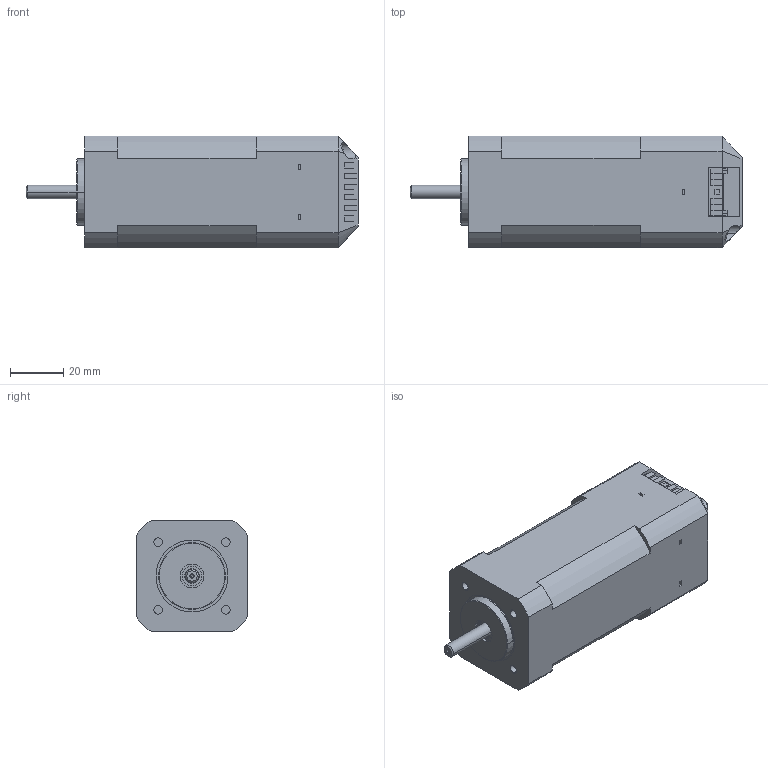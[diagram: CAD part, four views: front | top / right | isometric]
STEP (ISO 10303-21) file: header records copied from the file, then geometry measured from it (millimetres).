
FILE_DESCRIPTION((''),'2;1');
FILE_NAME('3_1_02_042_1545X2_SW0001','2024-10-15T11:17:36',('huangxue'),(''),'CREO PARAMETRIC BY PTC INC, 2017110','CREO PARAMETRIC BY PTC INC, 2017110','');
FILE_SCHEMA(('CONFIG_CONTROL_DESIGN'));
Products named in the file (1): 3_1_02_042_1545X2_SW0001
Bounding box: 124.8 x 42 x 42 mm (x, y, z)
Volume: 109248.5 mm3; surface area: 101103.6 mm2
Topology: 2 solids, 4 shells, 3101 faces, 8462 edges, 5486 vertices
Faces by surface type: plane 2461, cylinder 529, cone 56, torus 29, sphere 16, bspline 10
Entity records: 98964 total; most frequent: CARTESIAN_POINT 19193, ORIENTED_EDGE 16916, DIRECTION 16097, EDGE_CURVE 8458, VECTOR 6657, LINE 6657, VERTEX_POINT 5485, AXIS2_PLACEMENT_3D 4720
